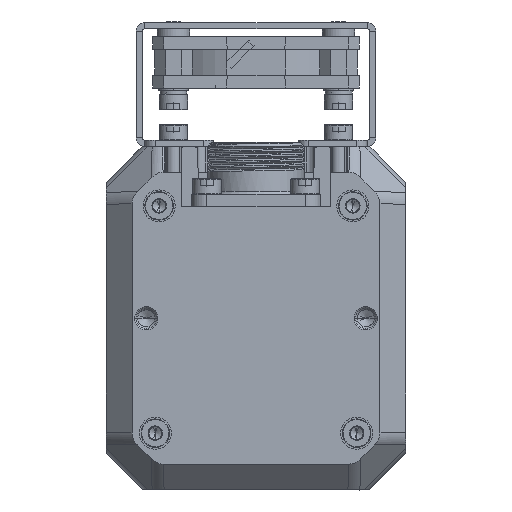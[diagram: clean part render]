
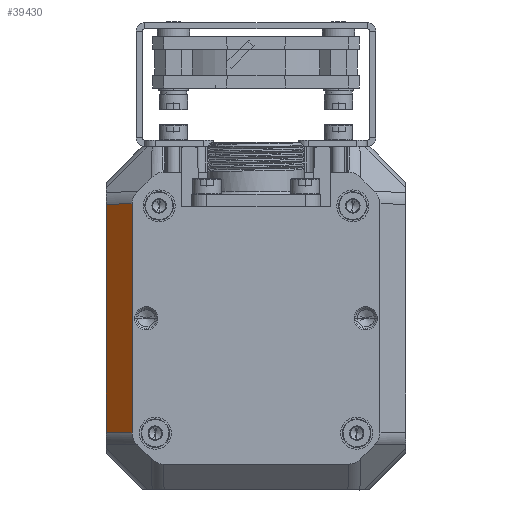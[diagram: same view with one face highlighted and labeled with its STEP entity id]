
A CAD part, front view. The second image highlights one B-rep face of the part: STEP entity #39430.
In plain terms, the highlighted planar face has unit normal (-0.707, -0.707, 0) as drawn and (0.707, 0, 0.707) by its records, which use the part's own axes.
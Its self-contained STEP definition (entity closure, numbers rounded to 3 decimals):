
#33246=DIRECTION('',(0.,1.,0.));
#33247=VECTOR('',#33246,44.094);
#33248=CARTESIAN_POINT('',(29.,-55.297,-5.));
#33249=LINE('',#33248,#33247);
#34095=CARTESIAN_POINT('',(29.,-55.297,-5.));
#34105=DIRECTION('',(-0.707,-0.02,0.707));
#34106=VECTOR('',#34105,7.072);
#34107=CARTESIAN_POINT('',(29.,-55.297,-5.));
#34108=LINE('',#34107,#34106);
#34112=DIRECTION('',(0.,1.,0.));
#34113=VECTOR('',#34112,44.371);
#34114=CARTESIAN_POINT('',(24.,-55.435,0.));
#34115=LINE('',#34114,#34113);
#34119=DIRECTION('',(0.707,-0.02,-0.707));
#34120=VECTOR('',#34119,7.072);
#34121=CARTESIAN_POINT('',(24.,-11.065,0.));
#34122=LINE('',#34121,#34120);
#34126=CARTESIAN_POINT('',(24.,-11.065,0.));
#35733=VERTEX_POINT('',#34126);
#35734=CARTESIAN_POINT('',(24.,-55.435,0.));
#35735=VERTEX_POINT('',#35734);
#36400=VERTEX_POINT('',#34095);
#36401=CARTESIAN_POINT('',(29.,-11.203,-5.));
#36402=VERTEX_POINT('',#36401);
#39418=CARTESIAN_POINT('',(26.5,-33.25,-2.5));
#39419=DIRECTION('',(0.707,0.,0.707));
#39420=DIRECTION('',(0.707,0.,-0.707));
#39421=AXIS2_PLACEMENT_3D('',#39418,#39419,#39420);
#39422=PLANE('',#39421);
#39423=ORIENTED_EDGE('',*,*,#38600,.F.);
#39424=ORIENTED_EDGE('',*,*,#39411,.T.);
#39425=ORIENTED_EDGE('',*,*,#36676,.T.);
#39427=ORIENTED_EDGE('',*,*,#39426,.T.);
#39428=EDGE_LOOP('',(#39423,#39424,#39425,#39427));
#39429=FACE_OUTER_BOUND('',#39428,.F.);
#36676=EDGE_CURVE('',#35735,#35733,#34115,.T.);
#38600=EDGE_CURVE('',#36400,#36402,#33249,.T.);
#39411=EDGE_CURVE('',#36400,#35735,#34108,.T.);
#39426=EDGE_CURVE('',#35733,#36402,#34122,.T.);
#39430=ADVANCED_FACE('',(#39429),#39422,.T.);
